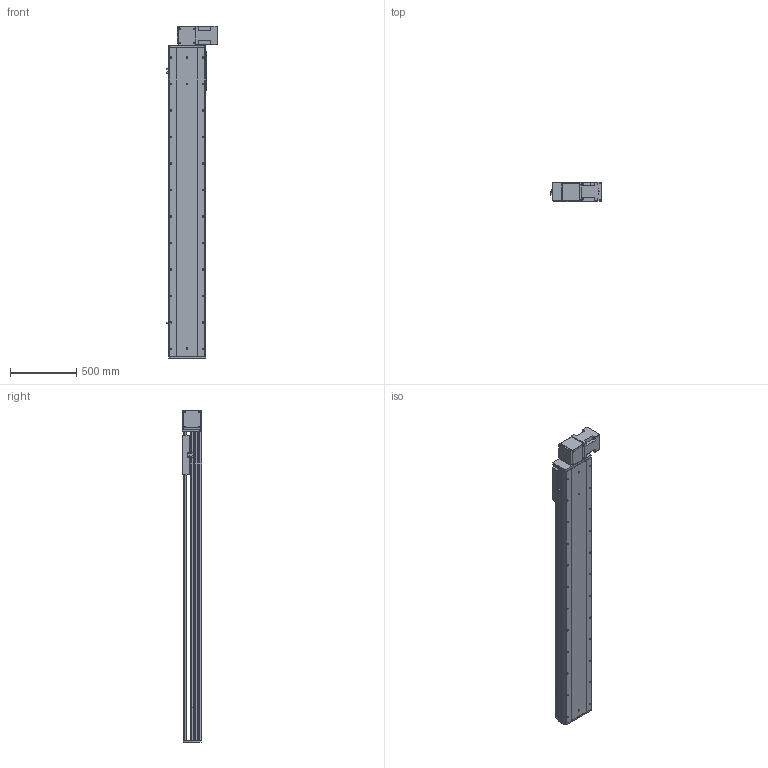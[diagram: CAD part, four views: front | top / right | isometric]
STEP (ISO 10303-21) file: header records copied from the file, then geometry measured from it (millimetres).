
FILE_DESCRIPTION (( 'STEP AP214' ), '1' );
FILE_NAME ('RTB28S-XX-1900-BL-M100-XX-C4.STEP', '2025-12-22T02:27:15', ( '' ), ( '' ), 'SwSTEP 2.0', 'SolidWorks 2018', '' );
FILE_SCHEMA (( 'AUTOMOTIVE_DESIGN' ));
Length unit declared in the file: millimetre
Products named in the file (4): RTB28S-XX-1900-BL-M100-XX-C4; RTB28S-GY-004^RTB28S-XX-XX-BL-M100-XX-C4; RTB28S-GY-011^RTB28S-XX-XX-BL-M100-XX-C4; RTB28S-GY-008^RTB28S-XX-XX-BL-M100-XX-C4
Assembly tree (3 placements, depth 2):
  RTB28S-XX-1900-BL-M100-XX-C4
    RTB28S-GY-011^RTB28S-XX-XX-BL-M100-XX-C4
    RTB28S-GY-004^RTB28S-XX-XX-BL-M100-XX-C4
    RTB28S-GY-008^RTB28S-XX-XX-BL-M100-XX-C4
Bounding box: 380.7 x 145 x 2507 mm (x, y, z)
Volume: 43793267.9 mm3; surface area: 4139064.3 mm2
Topology: 3 solids, 4 shells, 828 faces, 2208 edges, 1408 vertices
Faces by surface type: cylinder 391, plane 353, cone 80, torus 4
Entity records: 31457 total; most frequent: CARTESIAN_POINT 5602, DIRECTION 4686, ORIENTED_EDGE 4352, EDGE_CURVE 2176, AXIS2_PLACEMENT_3D 1708, VERTEX_POINT 1408, VECTOR 1270, LINE 1270
